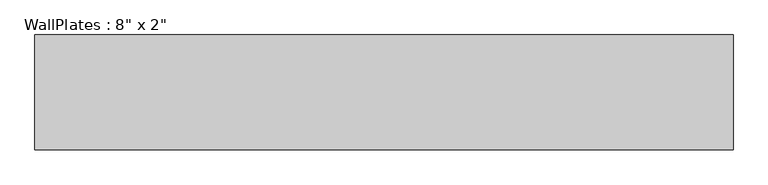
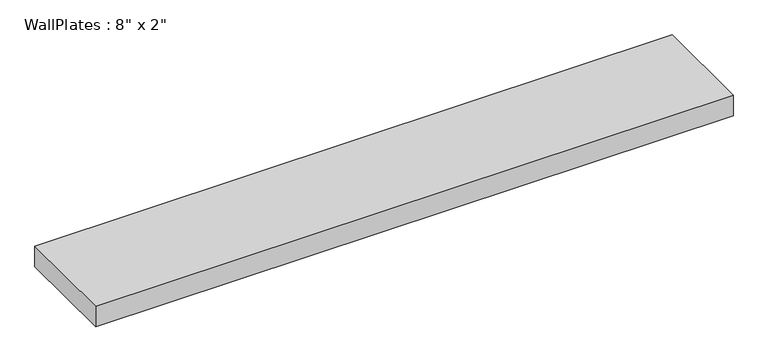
"""IFC4 building model written with IfcOpenShell, lengths in millimetres: beam geometry."""

from ifc_helpers import new_model, si_unit, frame, origin, place, context, project, spatial, polyline, outline, extrude, source, transform, mapped, element, save


def beam_68e625a2(model_context):
    return source(origin(), model_context, "Body", "SweptSolid", [
        extrude(outline(polyline([(-558.79, -92.075), (-558.79, 92.075), (558.79, 92.075), (558.79, -92.075), (-558.79, -92.075)])), frame((0.0, 0.0, -19.05), z_axis=(0.0, 0.0, 1.0), x_axis=(1.0, 0.0, 0.0)), (0.0, 0.0, 1.0), 38.1),
    ])


if __name__ == "__main__":
    model = new_model("IFC4")
    model_context = context("Model", 3, world=origin())
    ifc_project = project(units=[si_unit("LENGTHUNIT", "METRE", prefix="MILLI")], contexts=[model_context])
    site = spatial("IfcSite", under=ifc_project)
    building = spatial("IfcBuilding", under=site)
    placement = place(None, origin())
    beam_shape = beam_68e625a2(model_context)
    element("IfcBeam", 1, ObjectType="WallPlates : 8\" x 2\"", at=placement, inside=building, context=model_context, shape_type="MappedRepresentation", body=[
        mapped(beam_shape, transform((0.0, 0.0, 0.0), x_axis=(1.0, 0.0, 0.0), y_axis=(0.0, 1.0, 0.0), z_axis=(0.0, 0.0, 1.0))),
    ])
    save(model, "model.ifc")
